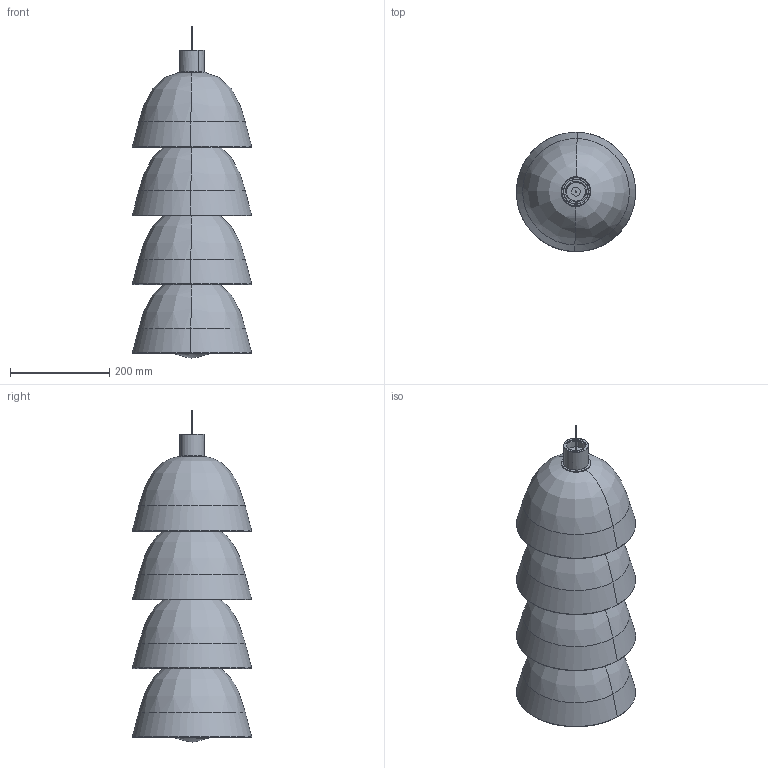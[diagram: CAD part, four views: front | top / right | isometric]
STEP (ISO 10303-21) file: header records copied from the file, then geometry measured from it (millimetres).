
FILE_DESCRIPTION(/* description */ (''),/* implementation_level */ '2;1');
FILE_NAME(/* name */ 'SEM.000219',/* time_stamp */ '2023-05-11T15:50:05+02:00',/* author */ (''),/* organization */ (''),/* preprocessor_version */ 'ST-DEVELOPER v16.5',/* originating_system */ 'Rhino 7.29',/* authorisation */ '');
FILE_SCHEMA (('CONFIG_CONTROL_DESIGN'));
Length unit declared in the file: millimetre
Products named in the file (9): Document; MET.006349; PLA.005260; MET.005642; VET.005135; VET.005128; PLA.005261; VET.005123; PLA.005262
Assembly tree (22 placements, depth 2):
  Document
    MET.006349
    PLA.005260
    MET.005642
    VET.005135
    VET.005128
    PLA.005261  x10
    VET.005123  x3
    PLA.005262  x4
Bounding box: 240.17 x 240.31 x 669.41 mm (x, y, z)
Volume: 860725.3 mm3; surface area: 1472782.3 mm2
Topology: 24 solids, 28 shells, 1416 faces, 3296 edges, 1832 vertices
Faces by surface type: bspline 1152, cylinder 182, plane 82
Entity records: 17927 total; most frequent: CARTESIAN_POINT 12803, ORIENTED_EDGE 1410, EDGE_CURVE 713, VERTEX_POINT 447, EDGE_LOOP 334, ADVANCED_FACE 304, FACE_OUTER_BOUND 304, DIRECTION 188
